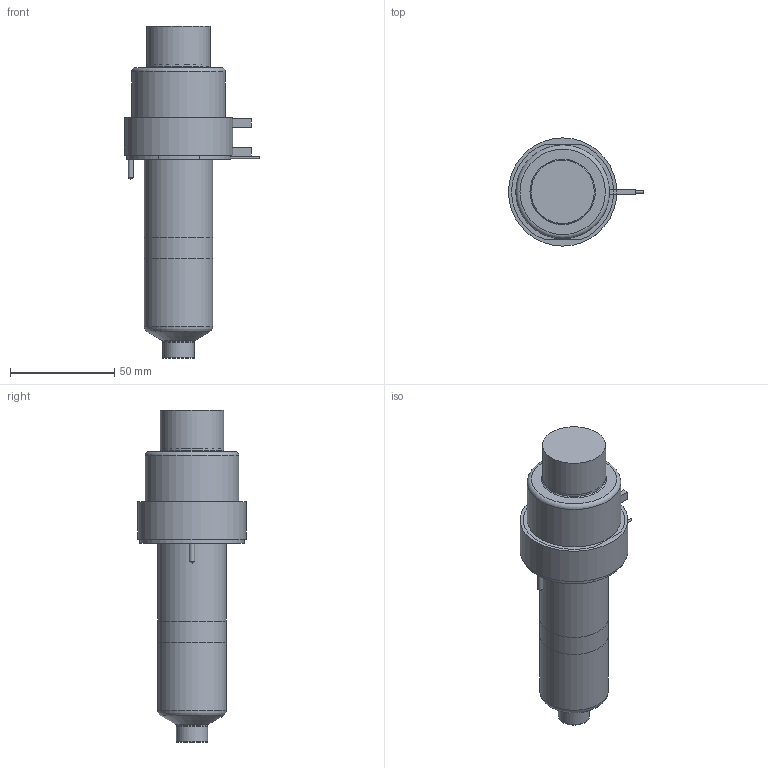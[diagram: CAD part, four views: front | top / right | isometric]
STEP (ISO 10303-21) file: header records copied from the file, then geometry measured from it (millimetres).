
FILE_DESCRIPTION(/* description */ (''),/* implementation_level */ '2;1');
FILE_NAME(/* name */ 'SXTBE-SXIBE-SXOBE19095_200C_a',/* time_stamp */ '2016-03-03T10:19:12+13:00',/* author */ (''),/* organization */ (''),/* preprocessor_version */ 'ST-DEVELOPER v9',/* originating_system */ 'UGS - NX 4.0',/* authorisation */ '');
FILE_SCHEMA (('CONFIG_CONTROL_DESIGN'));
Length unit declared in the file: millimetre
Products named in the file (1): matt0BBCfgxj
Bounding box: 64.85 x 52 x 159.45 mm (x, y, z)
Volume: 296850.4 mm3; surface area: 43927.9 mm2
Topology: 7 solids, 7 shells, 92 faces, 180 edges, 116 vertices
Faces by surface type: plane 45, cylinder 28, torus 9, cone 9, bspline 1
Full cylindrical faces by diameter (mm): 1 x3, 1.2 x1, 2.5 x2, 8 x1, 14.61 x1, 15.01 x2, 18.3 x1, 28.6 x1, 30 x1, 30.4 x1, 33 x2, 38.1 x1, 45 x1, 50 x1, 52 x1
Entity records: 2250 total; most frequent: CARTESIAN_POINT 438, DIRECTION 382, ORIENTED_EDGE 268, AXIS2_PLACEMENT_3D 166, EDGE_LOOP 142, EDGE_CURVE 134, VERTEX_POINT 107, ADVANCED_FACE 92
